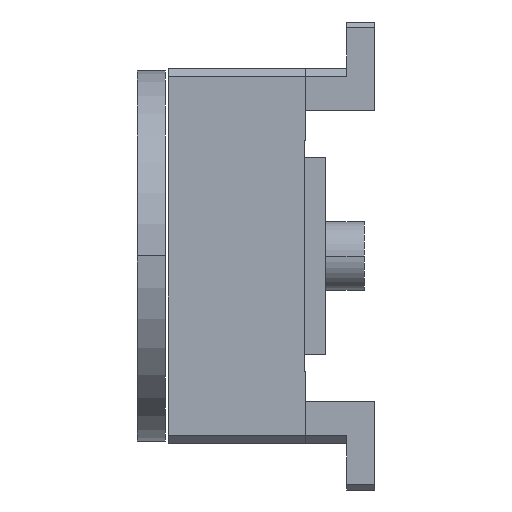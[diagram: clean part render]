
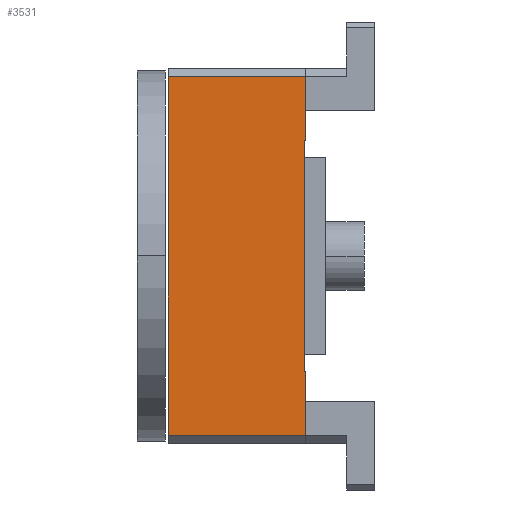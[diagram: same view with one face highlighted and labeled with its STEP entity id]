
A CAD part, left-side view. The second image highlights one B-rep face of the part: STEP entity #3531.
In plain terms, the highlighted planar face has unit normal (-1, 0, 0).
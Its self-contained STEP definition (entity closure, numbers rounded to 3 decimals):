
#1739=DIRECTION('',(0.,0.,1.));
#1740=VECTOR('',#1739,33.78);
#1741=CARTESIAN_POINT('',(-100.,-36.741,61.9));
#1742=LINE('',#1741,#1740);
#1767=DIRECTION('',(0.,0.,1.));
#1768=VECTOR('',#1767,33.78);
#1769=CARTESIAN_POINT('',(-100.,-36.741,-95.68));
#1770=LINE('',#1769,#1768);
#1826=DIRECTION('',(0.,0.,1.));
#1827=VECTOR('',#1826,191.36);
#1828=CARTESIAN_POINT('',(-100.,36.741,-95.68));
#1829=LINE('',#1828,#1827);
#1960=DIRECTION('',(0.,0.,1.));
#1961=VECTOR('',#1960,123.8);
#1962=CARTESIAN_POINT('',(-100.,-36.233,-61.9));
#1963=LINE('',#1962,#1961);
#1964=DIRECTION('',(0.,-1.,0.));
#1965=VECTOR('',#1964,0.508);
#1966=CARTESIAN_POINT('',(-100.,-36.233,-61.9));
#1967=LINE('',#1966,#1965);
#1968=DIRECTION('',(0.,-1.,0.));
#1969=VECTOR('',#1968,73.482);
#1970=CARTESIAN_POINT('',(-100.,36.741,-95.68));
#1971=LINE('',#1970,#1969);
#1972=DIRECTION('',(0.,-1.,0.));
#1973=VECTOR('',#1972,73.482);
#1974=CARTESIAN_POINT('',(-100.,36.741,95.68));
#1975=LINE('',#1974,#1973);
#1976=DIRECTION('',(0.,-1.,0.));
#1977=VECTOR('',#1976,0.508);
#1978=CARTESIAN_POINT('',(-100.,-36.233,61.9));
#1979=LINE('',#1978,#1977);
#2597=CARTESIAN_POINT('',(-100.,-36.741,-95.68));
#2599=VERTEX_POINT('',#2597);
#2603=CARTESIAN_POINT('',(-100.,36.741,-95.68));
#2604=VERTEX_POINT('',#2603);
#2606=CARTESIAN_POINT('',(-100.,-36.741,95.68));
#2608=VERTEX_POINT('',#2606);
#2609=CARTESIAN_POINT('',(-100.,36.741,95.68));
#2610=VERTEX_POINT('',#2609);
#2638=CARTESIAN_POINT('',(-100.,-36.741,61.9));
#2640=VERTEX_POINT('',#2638);
#2647=CARTESIAN_POINT('',(-100.,-36.741,-61.9));
#2648=VERTEX_POINT('',#2647);
#2653=CARTESIAN_POINT('',(-100.,-36.233,-61.9));
#2654=CARTESIAN_POINT('',(-100.,-36.233,61.9));
#2655=VERTEX_POINT('',#2653);
#2656=VERTEX_POINT('',#2654);
#3513=CARTESIAN_POINT('',(-100.,-36.741,-100.));
#3514=DIRECTION('',(-1.,0.,0.));
#3515=DIRECTION('',(0.,0.,1.));
#3516=AXIS2_PLACEMENT_3D('',#3513,#3514,#3515);
#3517=PLANE('',#3516);
#3518=ORIENTED_EDGE('',*,*,#3200,.F.);
#3520=ORIENTED_EDGE('',*,*,#3519,.T.);
#3521=ORIENTED_EDGE('',*,*,#3341,.F.);
#3522=ORIENTED_EDGE('',*,*,#3508,.F.);
#3523=ORIENTED_EDGE('',*,*,#3418,.T.);
#3525=ORIENTED_EDGE('',*,*,#3524,.T.);
#3526=ORIENTED_EDGE('',*,*,#3314,.F.);
#3528=ORIENTED_EDGE('',*,*,#3527,.F.);
#3529=EDGE_LOOP('',(#3518,#3520,#3521,#3522,#3523,#3525,#3526,#3528));
#3530=FACE_OUTER_BOUND('',#3529,.F.);
#3531=ADVANCED_FACE('',(#3530),#3517,.T.);
#3200=EDGE_CURVE('',#2655,#2656,#1963,.T.);
#3314=EDGE_CURVE('',#2640,#2608,#1742,.T.);
#3341=EDGE_CURVE('',#2599,#2648,#1770,.T.);
#3418=EDGE_CURVE('',#2604,#2610,#1829,.T.);
#3508=EDGE_CURVE('',#2604,#2599,#1971,.T.);
#3519=EDGE_CURVE('',#2655,#2648,#1967,.T.);
#3524=EDGE_CURVE('',#2610,#2608,#1975,.T.);
#3527=EDGE_CURVE('',#2656,#2640,#1979,.T.);
